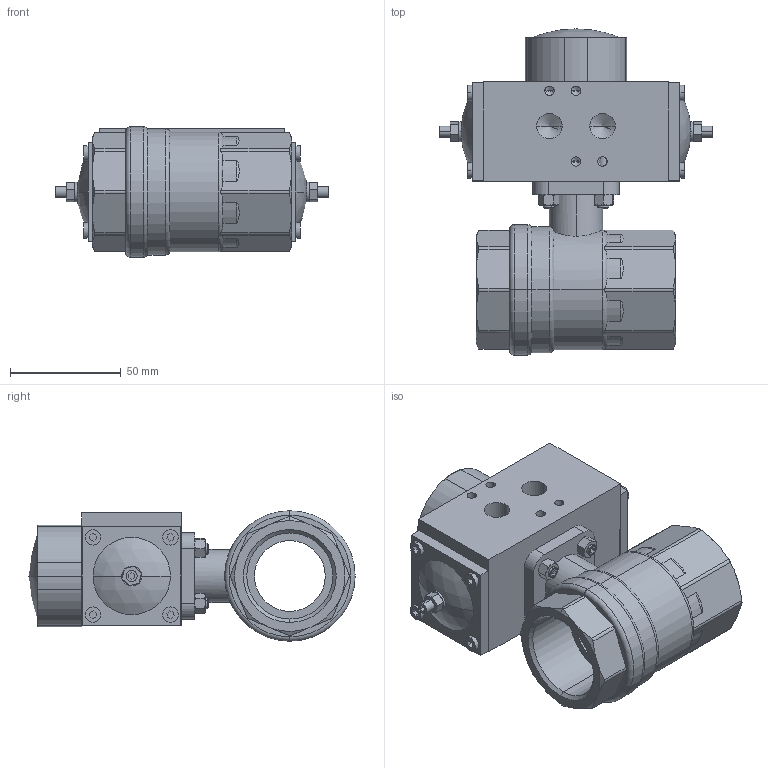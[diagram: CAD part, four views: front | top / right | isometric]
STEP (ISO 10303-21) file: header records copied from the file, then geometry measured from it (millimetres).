
FILE_DESCRIPTION (( 'STEP AP214' ), '1' );
FILE_NAME ('A25-DN32-G1 1_4+AP0.step', '2011-03-03T09:47:55', ( '' ), ( '' ), 'SwSTEP 2.0', 'SolidWorks 2011', '' );
FILE_SCHEMA (( 'AUTOMOTIVE_DESIGN' ));
Length unit declared in the file: millimetre
Products named in the file (5): Hexagon Nut ISO 4032 - M5 - D - N_Hexagon Nut ISO 4032 - M5 - D - N; DIN 913 - M5 x 25-N_DIN 913 - M5 x 25-N; AP0_Default<As Machined>; Ballvalve A25-DN32 G1 1_4; A25-DN32-G1 1_4+AP0
Assembly tree (10 placements, depth 2):
  A25-DN32-G1 1_4+AP0
    Ballvalve A25-DN32 G1 1_4
    DIN 913 - M5 x 25-N_DIN 913 - M5 x 25-N  x4
    Hexagon Nut ISO 4032 - M5 - D - N_Hexagon Nut ISO 4032 - M5 - D - N  x4
    AP0_Default<As Machined>
Bounding box: 123.81 x 147.49 x 59 mm (x, y, z)
Volume: 434239.8 mm3; surface area: 83796.6 mm2
Topology: 14 solids, 14 shells, 573 faces, 1350 edges, 830 vertices
Faces by surface type: plane 274, cylinder 144, cone 131, torus 18, sphere 6
Entity records: 14723 total; most frequent: CARTESIAN_POINT 3223, DIRECTION 2158, ORIENTED_EDGE 2096, EDGE_CURVE 1048, AXIS2_PLACEMENT_3D 775, VERTEX_POINT 668, LINE 608, VECTOR 608
